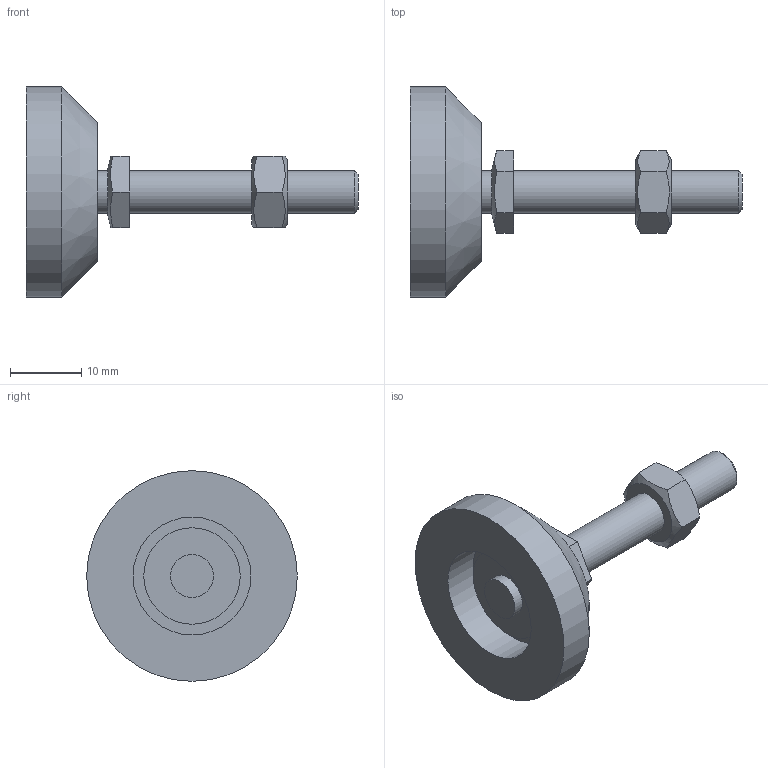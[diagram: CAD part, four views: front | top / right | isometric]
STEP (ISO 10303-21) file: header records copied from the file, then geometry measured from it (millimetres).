
FILE_DESCRIPTION((''),'2;1');
FILE_NAME('C:\Documents and Settings\akey00\デスクトップ\NIC2Ｄ_3D_CAD\3_06完\【提出用】レベリングフット\3D_LFNF-06-43\Imported Components\3D_LFNF-06-43\3D_LFNF-06-43.stp','2013-03-06T18:41:34',(''),('NIC Autotec, Inc.'),'Autodesk Inventor 2013','Autodesk Inventor 2013','');
FILE_SCHEMA(('CONFIG_CONTROL_DESIGN'));
Length unit declared in the file: millimetre
Products named in the file (1): 3D_LFNF-06-43
Bounding box: 46.5 x 29.5 x 29.5 mm (x, y, z)
Volume: 6469.7 mm3; surface area: 3343.5 mm2
Topology: 1 solids, 1 shells, 33 faces, 71 edges, 47 vertices
Faces by surface type: plane 21, cylinder 7, cone 4, sphere 1
Full cylindrical faces by diameter (mm): 6 x4, 13.5 x1, 16.5 x1, 29.5 x1
Entity records: 882 total; most frequent: CARTESIAN_POINT 170, DIRECTION 134, ORIENTED_EDGE 116, AXIS2_PLACEMENT_3D 58, EDGE_CURVE 58, EDGE_LOOP 52, VERTEX_POINT 46, STYLED_ITEM 34
